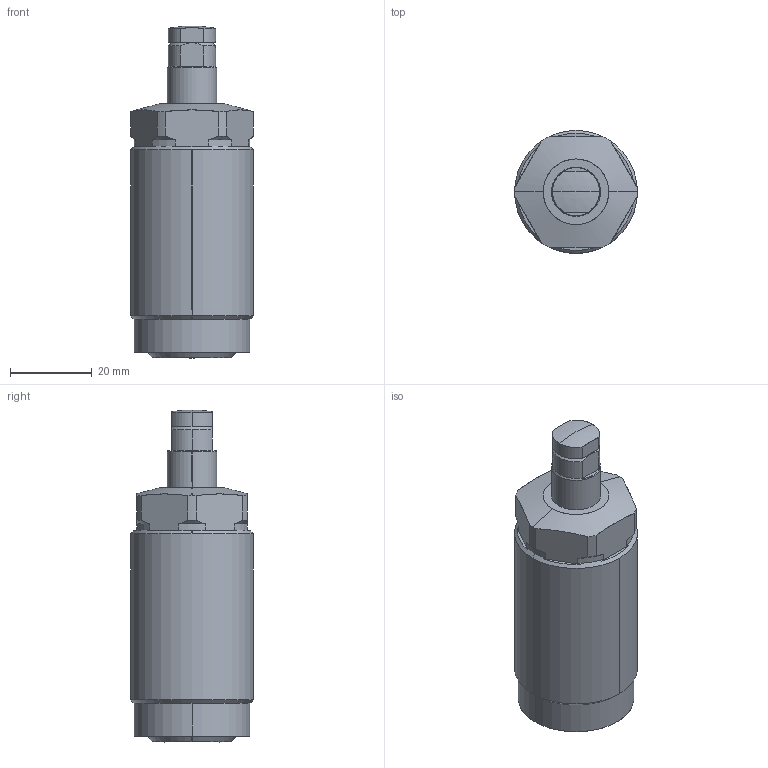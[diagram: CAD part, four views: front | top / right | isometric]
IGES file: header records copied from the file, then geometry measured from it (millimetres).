
Start section: SolidWorks IGES file using analytic representation for surfaces
Global section: file name: C:\Documents and Settings\nijil\My Documents\Clasys1\LDE Series\30\LD0302-x-E.IGS; native system: SolidWorks 2010; preprocessor: SolidWorks 2010; author: nijil; date: 130723.105742; units: millimetre
Bounding box: 30 x 30 x 81 mm (x, y, z)
Surface area: 7750.3 mm2 (no closed solid volume)
Topology: 0 solids, 0 shells, 83 faces, 1021 edges, 1015 vertices
Faces by surface type: revolution 51, bspline 32
